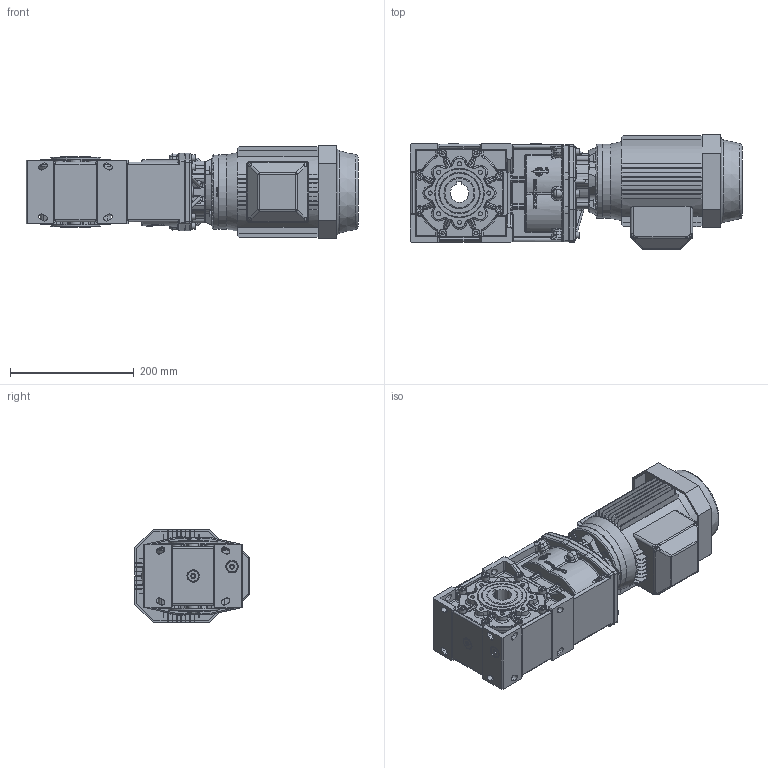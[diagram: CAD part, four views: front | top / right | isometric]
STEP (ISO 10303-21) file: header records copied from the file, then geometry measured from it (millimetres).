
FILE_DESCRIPTION((''),'2;1');
FILE_NAME('S:\Ghirri\3D\MO_RO20\Assiemi\MO20_2s-B14_80.stp','2006-02-01T15:46:41',('Stefano'),(''),'Autodesk Inventor 10','Autodesk Inventor 10','');
FILE_SCHEMA(('AUTOMOTIVE_DESIGN { 1 0 10303 214 1 1 1 1 }'));
Length unit declared in the file: millimetre
Products named in the file (16): MO20_2s-B14_80; Primario_MO20_2S; 3902001-A0; 3902003-A0; DIN 3760 AS AS - 50 x 65 x 8 - NBR; UNI 5931  M 8 x  20; 3902009-A0; 3902002-A0; Guarnizione 1_4 GAS; Tappo 1_4 GAS; UNI 5931  M 6 x  25; UNI 8839 A 6; motori B14 80; FM-63-75-D=120; UNI 5739  M6 x 20
Assembly tree (44 placements, depth 3):
  MO20_2s-B14_80
    Primario_MO20_2S
      3902001-A0
      3902003-A0
      DIN 3760 AS AS - 50 x 65 x 8 - NBR  x2
      UNI 5931  M 8 x  20  x8
      3902009-A0
      3902002-A0
      Guarnizione 1_4 GAS  x5
      Tappo 1_4 GAS  x5
      UNI 5931  M 6 x  25  x6
      UNI 8839 A 6  x6
    motori B14 80
    FM-63-75-D=120
      FM-63-75-D=120
      UNI 5739  M6 x 20  x4
Bounding box: 537 x 185 x 150 mm (x, y, z)
Volume: 6955896.9 mm3; surface area: 729880.1 mm2
Topology: 41 solids, 49 shells, 3622 faces, 9242 edges, 5720 vertices
Faces by surface type: plane 1299, cylinder 1062, bspline 966, cone 152, torus 137, sphere 6
Full cylindrical faces by diameter (mm): 6 x10, 8 x8, 8.5 x8, 8.88 x4, 10 x6, 13 x18, 18 x5, 19 x6, 50 x3, 54.8 x2, 60 x1, 61 x2, 62 x2, 65 x4, 68 x2, 80 x3, 114.4 x1, 120 x2, 122.4 x1, 128 x3
Entity records: 216853 total; most frequent: CARTESIAN_POINT 141621, ORIENTED_EDGE 16174, DIRECTION 14912, EDGE_CURVE 8087, AXIS2_PLACEMENT_3D 5769, VERTEX_POINT 5151, EDGE_LOOP 3608, VECTOR 3374
